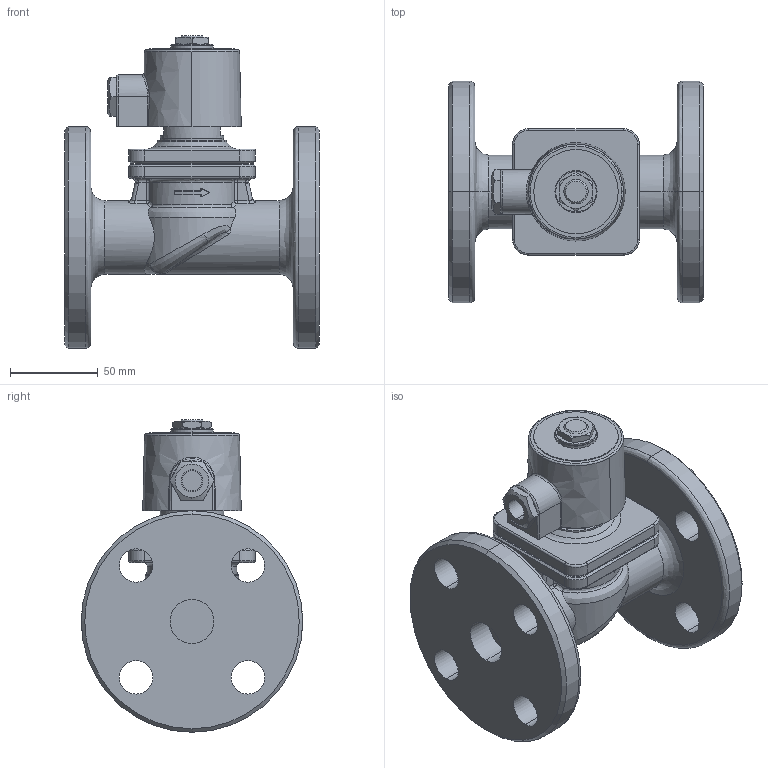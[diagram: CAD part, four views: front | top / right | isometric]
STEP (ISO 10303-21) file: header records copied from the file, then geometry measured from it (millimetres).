
FILE_DESCRIPTION( (''), '2;1');
FILE_NAME ('PC1027.7416.DP-100F　25A_29215.stp','2025-07-28T18:15:04',(''),(''),'spGate 19.8.4 (****-****-****-****)','','');
FILE_SCHEMA (('AUTOMOTIVE_DESIGN'));
Length unit declared in the file: millimetre
Products named in the file (6): Assembly; DP-100 弁箱 25A; ふた　25A; パイプP 10-25A; ACコイル10A; ACコイル10A部品プレート
Assembly tree (5 placements, depth 2):
  Assembly
    DP-100 弁箱 25A
    ふた　25A
    パイプP 10-25A
    ACコイル10A
    ACコイル10A部品プレート
Bounding box: 145 x 126 x 177.7 mm (x, y, z)
Volume: 770067 mm3; surface area: 130004.4 mm2
Topology: 5 solids, 5 shells, 422 faces, 978 edges, 563 vertices
Faces by surface type: bspline 163, cylinder 134, plane 104, sphere 21
Entity records: 24466 total; most frequent: CARTESIAN_POINT 8116, ORIENTED_EDGE 1902, DIRECTION 1551, COLOUR_RGB 1378, PRESENTATION_STYLE_ASSIGNMENT 1378, STYLED_ITEM 1378, EDGE_CURVE 951, DRAUGHTING_PRE_DEFINED_CURVE_FONT 951
